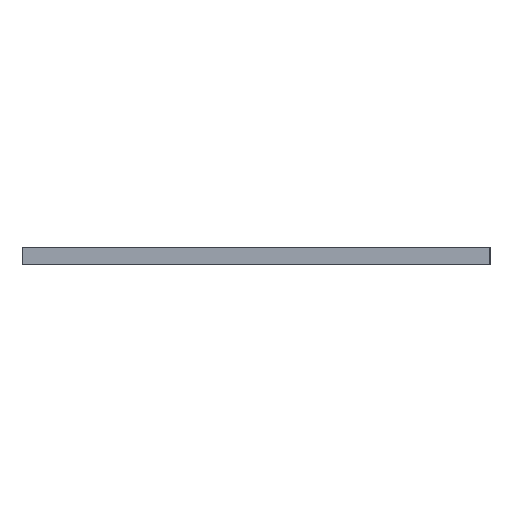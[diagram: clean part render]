
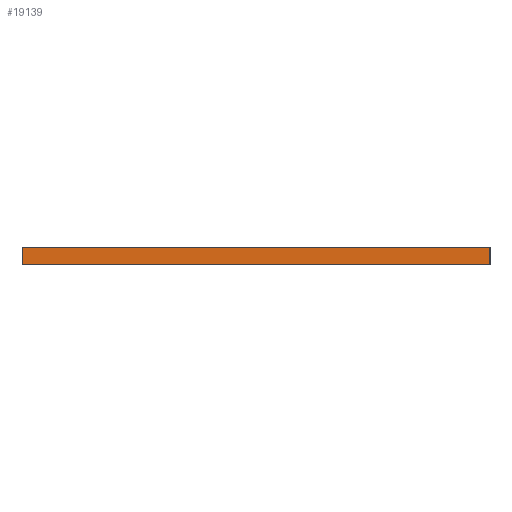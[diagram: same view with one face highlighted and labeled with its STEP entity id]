
A CAD part, left-side view. The second image highlights one B-rep face of the part: STEP entity #19139.
In plain terms, the highlighted planar face has unit normal (-1, 0, 0).
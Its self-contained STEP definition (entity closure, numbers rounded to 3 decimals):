
#1569=PLANE('',#20404);
#2698=FACE_OUTER_BOUND('',#4122,.T.);
#4122=EDGE_LOOP('',(#16741,#16742,#16743,#16744));
#5310=LINE('',#32072,#6730);
#5540=LINE('',#33636,#6960);
#5541=LINE('',#33637,#6961);
#5542=LINE('',#33638,#6962);
#6730=VECTOR('',#22300,10.);
#6960=VECTOR('',#24310,10.);
#6961=VECTOR('',#24311,10.);
#6962=VECTOR('',#24312,10.);
#8824=VERTEX_POINT('',#32065);
#8827=VERTEX_POINT('',#32070);
#9270=VERTEX_POINT('',#33634);
#9271=VERTEX_POINT('',#33635);
#11098=EDGE_CURVE('',#8827,#8824,#5310,.T.);
#11762=EDGE_CURVE('',#9270,#9271,#5540,.T.);
#11763=EDGE_CURVE('',#9271,#8824,#5541,.T.);
#11764=EDGE_CURVE('',#9270,#8827,#5542,.T.);
#16741=ORIENTED_EDGE('',*,*,#11762,.T.);
#16742=ORIENTED_EDGE('',*,*,#11763,.T.);
#16743=ORIENTED_EDGE('',*,*,#11098,.F.);
#16744=ORIENTED_EDGE('',*,*,#11764,.F.);
#19139=ADVANCED_FACE('',(#2698),#1569,.T.);
#20404=AXIS2_PLACEMENT_3D('',#33633,#24308,#24309);
#22300=DIRECTION('',(0.,-1.,0.));
#24308=DIRECTION('center_axis',(-1.,0.,0.));
#24309=DIRECTION('ref_axis',(0.,-1.,0.));
#24310=DIRECTION('',(0.,-1.,0.));
#24311=DIRECTION('',(0.,0.,1.));
#24312=DIRECTION('',(0.,0.,1.));
#32065=CARTESIAN_POINT('',(-49.,-27.,2.));
#32070=CARTESIAN_POINT('',(-49.,27.,2.));
#32072=CARTESIAN_POINT('',(-49.,27.,2.));
#33633=CARTESIAN_POINT('Origin',(-49.,27.,0.));
#33634=CARTESIAN_POINT('',(-49.,27.,0.));
#33635=CARTESIAN_POINT('',(-49.,-27.,0.));
#33636=CARTESIAN_POINT('',(-49.,27.,0.));
#33637=CARTESIAN_POINT('',(-49.,-27.,0.));
#33638=CARTESIAN_POINT('',(-49.,27.,0.));
